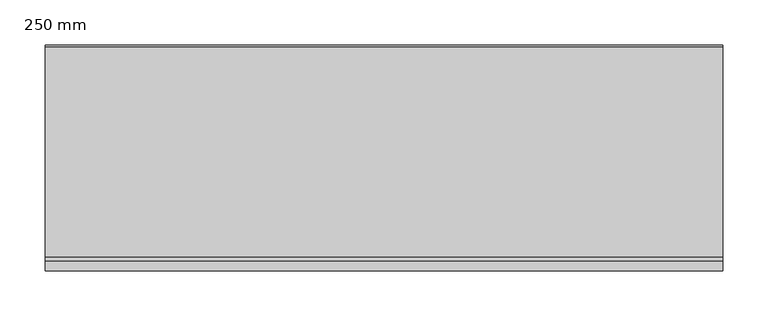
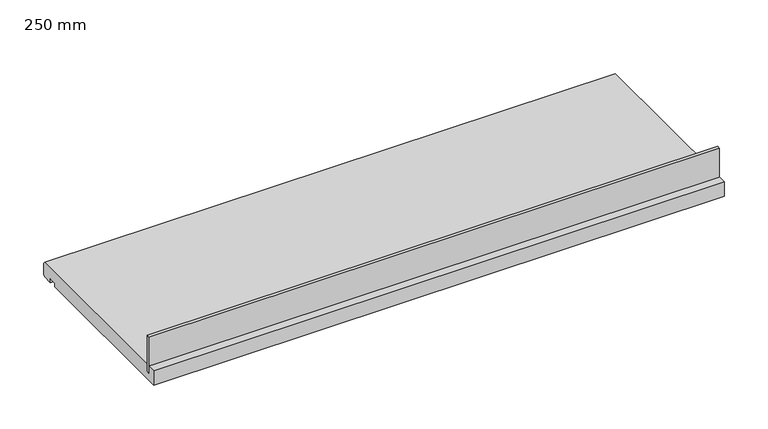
"""IFC4 building model written with IfcOpenShell, lengths in millimetres: proxy geometry, 400_35_NS_raamdorpel_kunststof_klik : 250 mm."""

import ifcopenshell
import ifcopenshell.guid

model = None  # the IFC model being written
_history = None  # IfcOwnerHistory: only IFC2X3 demands one
_inside = {}  # id of a spatial element -> (the spatial element, [elements in it])
_under = {}  # id of a project, library or spatial element -> (it, [spatial elements below it])
_declared = {}  # id of a project -> (the project, [libraries it declares])
_typed = {}  # id of a type object -> (the type object, [elements of that type])
_made_of = {}  # id of a material, layer set ... -> (it, [elements and type objects made of it])


def new_model(schema):
    """Start an empty IFC model of exactly this schema.

    Asked for "IFC4X3", IfcOpenShell would pick the latest addendum, in which some entities
    have other attributes; the version numbers below select the first issue.
    IFC2X3 requires an IfcOwnerHistory on every rooted entity: one is made here for all.
    """
    global model, _history
    if schema == "IFC4X3":
        model = ifcopenshell.file(schema_version=(4, 3, 0, 0))
    else:
        model = ifcopenshell.file(schema=schema)
    _inside.clear()
    _under.clear()
    _declared.clear()
    _typed.clear()
    _made_of.clear()
    _history = None
    if model.schema == "IFC2X3":
        org = make("IfcOrganization", Name="unknown")
        user = make(
            "IfcPersonAndOrganization",
            ThePerson=make("IfcPerson", FamilyName="unknown"),
            TheOrganization=org,
        )
        app = make(
            "IfcApplication",
            ApplicationDeveloper=org,
            Version="unknown",
            ApplicationFullName="unknown",
            ApplicationIdentifier="unknown",
        )
        _history = make(
            "IfcOwnerHistory",
            OwningUser=user,
            OwningApplication=app,
            ChangeAction="ADDED",
            CreationDate=0,
        )
    return model


def make(cls, **values):
    """One entity of the class cls with the attributes given. An attribute that is None is left unset."""
    return model.create_entity(
        cls, **{name: value for name, value in values.items() if value is not None}
    )


def rooted(cls, **values):
    """An entity with a GlobalId (a new one), such as an element, a storey or a relation."""
    return make(cls, GlobalId=ifcopenshell.guid.new(), OwnerHistory=_history, **values)


def si_unit(unit_type, name, prefix=None):
    """IfcSIUnit, for example si_unit("LENGTHUNIT", "METRE", prefix="MILLI")."""
    return make("IfcSIUnit", UnitType=unit_type, Prefix=prefix, Name=name)


def assignment(units):
    """IfcUnitAssignment: the units of a project."""
    return None if units is None else make("IfcUnitAssignment", Units=units)


def point(xyz):
    """IfcCartesianPoint."""
    return None if xyz is None else make("IfcCartesianPoint", Coordinates=xyz)


def direction(xyz):
    """IfcDirection."""
    return None if xyz is None else make("IfcDirection", DirectionRatios=xyz)


def frame(location, z_axis=None, x_axis=None):
    """IfcAxis2Placement3D, a coordinate frame: its origin and axes. An axis left out is left unset."""
    return make(
        "IfcAxis2Placement3D",
        Location=point(location),
        Axis=direction(z_axis),
        RefDirection=direction(x_axis),
    )


def origin():
    """The frame at (0, 0, 0) with its axes left unset."""
    return frame((0.0, 0.0, 0.0))


def place(relative_to, where):
    """IfcLocalPlacement: puts the frame where relative to a parent placement (None: the world)."""
    return make(
        "IfcLocalPlacement", PlacementRelTo=relative_to, RelativePlacement=where
    )


def context(
    kind, dimensions, precision=None, world=None, true_north=None, identifier=None
):
    """IfcGeometricRepresentationContext, for example the 3D "Model" context."""
    return make(
        "IfcGeometricRepresentationContext",
        ContextIdentifier=identifier,
        ContextType=kind,
        CoordinateSpaceDimension=dimensions,
        Precision=precision,
        WorldCoordinateSystem=world,
        TrueNorth=true_north,
    )


def project(units=None, contexts=None):
    """IfcProject with its units and contexts."""
    return rooted(
        "IfcProject",
        Name="project",
        RepresentationContexts=contexts,
        UnitsInContext=assignment(units),
    )


def spatial(cls, under=None, at=None, **own):
    """A site, building, storey or space (cls), placed at a placement, below another one or the project."""
    s = rooted(cls, ObjectPlacement=at, **own)
    if under is not None:
        _under.setdefault(under.id(), (under, []))[1].append(s)
    return s


def polyline(points):
    """IfcPolyline through the points."""
    return make("IfcPolyline", Points=[point(p) for p in points])


def outline(outer, holes=None, kind="AREA"):
    """IfcArbitraryClosedProfileDef: a profile drawn as a closed curve; with holes, ...WithVoids."""
    if holes is None:
        return make("IfcArbitraryClosedProfileDef", ProfileType=kind, OuterCurve=outer)
    return make(
        "IfcArbitraryProfileDefWithVoids",
        ProfileType=kind,
        OuterCurve=outer,
        InnerCurves=holes,
    )


def extrude(swept, where, along, depth):
    """IfcExtrudedAreaSolid: the profile swept, set in the frame where, extruded along a direction by depth."""
    return make(
        "IfcExtrudedAreaSolid",
        SweptArea=swept,
        Position=where,
        ExtrudedDirection=direction(along),
        Depth=depth,
    )


def shape(context_of_items, identifier, shape_type, items):
    """IfcShapeRepresentation: the items that make up one representation, for example the "Body"."""
    return make(
        "IfcShapeRepresentation",
        ContextOfItems=context_of_items,
        RepresentationIdentifier=identifier,
        RepresentationType=shape_type,
        Items=items,
    )


def source(mapping_origin, context_of_items, identifier, shape_type, items):
    """IfcRepresentationMap: a shape defined once, which mapped items show again and again."""
    return make(
        "IfcRepresentationMap",
        MappingOrigin=mapping_origin,
        MappedRepresentation=shape(context_of_items, identifier, shape_type, items),
    )


def transform(
    local_origin,
    x_axis=None,
    y_axis=None,
    z_axis=None,
    scale=None,
    scale2=None,
    scale3=None,
    uniform=True,
):
    """IfcCartesianTransformationOperator3D, or its non-uniform kind. x_axis, y_axis, z_axis: its Axis1, 2, 3."""
    if uniform:
        return make(
            "IfcCartesianTransformationOperator3D",
            Axis1=direction(x_axis),
            Axis2=direction(y_axis),
            LocalOrigin=point(local_origin),
            Scale=scale,
            Axis3=direction(z_axis),
        )
    return make(
        "IfcCartesianTransformationOperator3DnonUniform",
        Axis1=direction(x_axis),
        Axis2=direction(y_axis),
        LocalOrigin=point(local_origin),
        Scale=scale,
        Axis3=direction(z_axis),
        Scale2=scale2,
        Scale3=scale3,
    )


def mapped(mapping_source, mapping_target):
    """IfcMappedItem: shows the shape of a source again, moved by a transform."""
    return make(
        "IfcMappedItem", MappingSource=mapping_source, MappingTarget=mapping_target
    )


def made_of(thing, what):
    """Note that an element or type object is made of a material, layer set ...; save() writes the relation."""
    if what is not None:
        _made_of.setdefault(what.id(), (what, []))[1].append(thing)
    return thing


def element(
    cls,
    number,
    at=None,
    inside=None,
    cuts=None,
    type_object=None,
    material=None,
    context=None,
    identifier="Body",
    shape_type=None,
    held_by="IfcProductDefinitionShape",
    body=None,
    shapes=None,
    **own,
):
    """One element of the class cls, such as IfcWall. Its Tag is "e" and its number.

    at: its placement. inside: the storey or other place that contains it. cuts: it is an
    opening in that element (IfcRelVoidsElement). A single representation is given by context,
    identifier, shape_type and body (its items); several are given by shapes. held_by: the class
    of the entity that holds the representations. save() writes the other relations.
    """
    e = rooted(cls, Tag="e%d" % number, ObjectPlacement=at, **own)
    if body is not None:
        shapes = [shape(context, identifier, shape_type, body)]
    if shapes is not None:
        e.Representation = make(held_by, Representations=shapes)
    if inside is not None:
        _inside.setdefault(inside.id(), (inside, []))[1].append(e)
    if cuts is not None:
        rooted(
            "IfcRelVoidsElement", RelatingBuildingElement=cuts, RelatedOpeningElement=e
        )
    if type_object is not None:
        _typed.setdefault(type_object.id(), (type_object, []))[1].append(e)
    return made_of(e, material)


def aggregate(whole, parts):
    """IfcRelAggregates: a whole, such as a stair, and the parts it consists of."""
    return rooted("IfcRelAggregates", RelatingObject=whole, RelatedObjects=parts)


def save(model, path):
    """Write the relations noted so far, then the file.

    IfcRelAggregates (storeys below a building ...), IfcRelContainedInSpatialStructure (elements
    in a storey), IfcRelDefinesByType, IfcRelAssociatesMaterial and IfcRelDeclares: one each for
    every whole, place, type object, material and project.
    """
    for whole, parts in _under.values():
        aggregate(whole, parts)
    for where, things in _inside.values():
        rooted(
            "IfcRelContainedInSpatialStructure",
            RelatedElements=things,
            RelatingStructure=where,
        )
    for kind, things in _typed.values():
        rooted("IfcRelDefinesByType", RelatedObjects=things, RelatingType=kind)
    for what, things in _made_of.values():
        rooted("IfcRelAssociatesMaterial", RelatedObjects=things, RelatingMaterial=what)
    for by, libraries in _declared.values():
        rooted("IfcRelDeclares", RelatingContext=by, RelatedDefinitions=libraries)
    model.write(path)


def proxy_250_mm_bb0ab3bd(model_context):
    return source(origin(), model_context, "Body", "SweptSolid", [
        extrude(outline(polyline([(-375.0, 11.0), (-375.0, 15.0), (375.0, 15.0), (375.0, 11.0), (-375.0, 11.0)])), frame((0.0, 0.0, 10.0), z_axis=(0.0, 0.0, 1.0), x_axis=(1.0, 0.0, 0.0)), (0.0, 0.0, 1.0), 50.0),
        extrude(outline(polyline([(15.0, 20.0), (248.0, 20.0), (250.0, 18.0), (250.0, 2.0), (248.0, 0.0), (235.0, 0.0), (235.0, 5.0), (225.0, 5.0), (225.0, 0.0), (0.0, 0.0), (0.0, 20.0), (11.0, 20.0), (11.0, 10.0), (15.0, 10.0), (15.0, 20.0)])), frame((-375.0, 0.0, 0.0), z_axis=(1.0, 0.0, 0.0), x_axis=(0.0, 1.0, 0.0)), (0.0, 0.0, 1.0), 750.0),
    ])


if __name__ == "__main__":
    model = new_model("IFC4")
    model_context = context("Model", 3, world=origin())
    ifc_project = project(units=[si_unit("LENGTHUNIT", "METRE", prefix="MILLI")], contexts=[model_context])
    site = spatial("IfcSite", under=ifc_project)
    building = spatial("IfcBuilding", under=site)
    placement = place(None, origin())
    proxy_250_mm_shape = proxy_250_mm_bb0ab3bd(model_context)
    element("IfcBuildingElementProxy", 1, Name="400_35_NS_raamdorpel_kunststof_klik : 250 mm", ObjectType="400_35_NS_raamdorpel_kunststof_klik : 250 mm", at=placement, inside=building, context=model_context, shape_type="MappedRepresentation", body=[
        mapped(proxy_250_mm_shape, transform((0.0, 0.0, 0.0), x_axis=(1.0, 0.0, 0.0), y_axis=(0.0, 1.0, 0.0), z_axis=(0.0, 0.0, 1.0))),
    ])
    save(model, "model.ifc")
